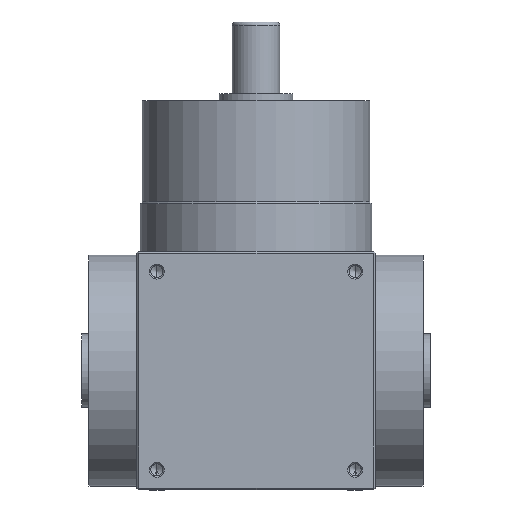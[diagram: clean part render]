
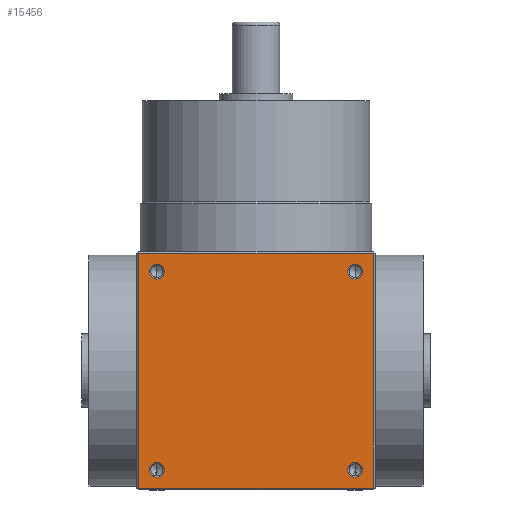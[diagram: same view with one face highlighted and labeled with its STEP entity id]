
A CAD part, front view. The second image highlights one B-rep face of the part: STEP entity #15456.
In plain terms, the highlighted planar face has unit normal (0, -1, 0).
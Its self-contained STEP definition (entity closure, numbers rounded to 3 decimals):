
#26 = CIRCLE ( 'NONE', #12789, 2.025 ) ;
#681 = ORIENTED_EDGE ( 'NONE', *, *, #30812, .F. ) ;
#735 = VERTEX_POINT ( 'NONE', #23445 ) ;
#914 = CARTESIAN_POINT ( 'NONE',  ( -27., -32.5, 3.475 ) ) ;
#1056 = DIRECTION ( 'NONE',  ( 1., 0., 0. ) ) ;
#1063 = CARTESIAN_POINT ( 'NONE',  ( -27., -32.5, 59.5 ) ) ;
#1084 = FACE_BOUND ( 'NONE', #12597, .T. ) ;
#1417 = CARTESIAN_POINT ( 'NONE',  ( -32.5, -32.5, 0.5 ) ) ;
#1503 = CIRCLE ( 'NONE', #18957, 2.025 ) ;
#1593 = EDGE_CURVE ( 'NONE', #42715, #19151, #42397, .T. ) ;
#1824 = AXIS2_PLACEMENT_3D ( 'NONE', #22440, #2060, #25838 ) ;
#2028 = ORIENTED_EDGE ( 'NONE', *, *, #14134, .F. ) ;
#2060 = DIRECTION ( 'NONE',  ( 0., -1., 0. ) ) ;
#2398 = EDGE_CURVE ( 'NONE', #11981, #14572, #43942, .T. ) ;
#2580 = DIRECTION ( 'NONE',  ( 0., 0., 1. ) ) ;
#3337 = EDGE_LOOP ( 'NONE', ( #39073, #16891 ) ) ;
#3469 = ORIENTED_EDGE ( 'NONE', *, *, #23998, .F. ) ;
#4030 = EDGE_LOOP ( 'NONE', ( #23951, #10515 ) ) ;
#4548 = DIRECTION ( 'NONE',  ( 0., 0., -1. ) ) ;
#4918 = CARTESIAN_POINT ( 'NONE',  ( -27., -32.5, 5.5 ) ) ;
#4971 = CIRCLE ( 'NONE', #19236, 2.025 ) ;
#5833 = EDGE_CURVE ( 'NONE', #19393, #735, #22936, .T. ) ;
#6738 = VECTOR ( 'NONE', #32769, 1000. ) ;
#7437 = CARTESIAN_POINT ( 'NONE',  ( -32., -32.5, 64.5 ) ) ;
#8032 = CARTESIAN_POINT ( 'NONE',  ( -32., -32.5, 65. ) ) ;
#8356 = AXIS2_PLACEMENT_3D ( 'NONE', #26166, #26028, #25749 ) ;
#8387 = DIRECTION ( 'NONE',  ( 0., 0., -1. ) ) ;
#8608 = CARTESIAN_POINT ( 'NONE',  ( 27., -32.5, 59.5 ) ) ;
#9500 = CARTESIAN_POINT ( 'NONE',  ( 27., -32.5, 61.525 ) ) ;
#9851 = LINE ( 'NONE', #1417, #36859 ) ;
#10277 = FACE_BOUND ( 'NONE', #3337, .T. ) ;
#10515 = ORIENTED_EDGE ( 'NONE', *, *, #12804, .F. ) ;
#11712 = EDGE_CURVE ( 'NONE', #24565, #32898, #4971, .T. ) ;
#11981 = VERTEX_POINT ( 'NONE', #9500 ) ;
#12032 = DIRECTION ( 'NONE',  ( 0., 0., -1. ) ) ;
#12535 = CARTESIAN_POINT ( 'NONE',  ( 32., -32.5, 65. ) ) ;
#12597 = EDGE_LOOP ( 'NONE', ( #18156, #23937 ) ) ;
#12789 = AXIS2_PLACEMENT_3D ( 'NONE', #4918, #28631, #8387 ) ;
#12804 = EDGE_CURVE ( 'NONE', #735, #19393, #26, .T. ) ;
#12982 = CARTESIAN_POINT ( 'NONE',  ( -27., -32.5, 61.525 ) ) ;
#13707 = CARTESIAN_POINT ( 'NONE',  ( 32., -32.5, 0.5 ) ) ;
#14134 = EDGE_CURVE ( 'NONE', #40551, #19315, #42562, .T. ) ;
#14572 = VERTEX_POINT ( 'NONE', #31330 ) ;
#14701 = DIRECTION ( 'NONE',  ( 0., 0., -1. ) ) ;
#14709 = DIRECTION ( 'NONE',  ( 0., -1., 0. ) ) ;
#14762 = CARTESIAN_POINT ( 'NONE',  ( 27., -32.5, 5.5 ) ) ;
#15456 = ADVANCED_FACE ( 'NONE', ( #1084, #10277, #28216, #29306, #36220 ), #43335, .F. ) ;
#16057 = CARTESIAN_POINT ( 'NONE',  ( -32.5, -32.5, 65. ) ) ;
#16891 = ORIENTED_EDGE ( 'NONE', *, *, #2398, .F. ) ;
#17001 = ORIENTED_EDGE ( 'NONE', *, *, #1593, .F. ) ;
#18156 = ORIENTED_EDGE ( 'NONE', *, *, #20322, .F. ) ;
#18383 = EDGE_LOOP ( 'NONE', ( #681, #2028, #25934, #3469 ) ) ;
#18788 = CARTESIAN_POINT ( 'NONE',  ( -32., -32.5, 0.5 ) ) ;
#18868 = CARTESIAN_POINT ( 'NONE',  ( 32., -32.5, 64.5 ) ) ;
#18957 = AXIS2_PLACEMENT_3D ( 'NONE', #8608, #32274, #12032 ) ;
#19151 = VERTEX_POINT ( 'NONE', #32463 ) ;
#19236 = AXIS2_PLACEMENT_3D ( 'NONE', #1063, #24876, #4548 ) ;
#19315 = VERTEX_POINT ( 'NONE', #7437 ) ;
#19393 = VERTEX_POINT ( 'NONE', #914 ) ;
#19454 = DIRECTION ( 'NONE',  ( 0., -1., 0. ) ) ;
#20322 = EDGE_CURVE ( 'NONE', #32898, #24565, #27841, .T. ) ;
#20901 = EDGE_CURVE ( 'NONE', #24731, #40551, #9851, .T. ) ;
#22440 = CARTESIAN_POINT ( 'NONE',  ( -27., -32.5, 59.5 ) ) ;
#22936 = CIRCLE ( 'NONE', #8356, 2.025 ) ;
#22956 = DIRECTION ( 'NONE',  ( 0., 1., 0. ) ) ;
#22976 = AXIS2_PLACEMENT_3D ( 'NONE', #36235, #36096, #35948 ) ;
#23445 = CARTESIAN_POINT ( 'NONE',  ( -27., -32.5, 7.525 ) ) ;
#23901 = VERTEX_POINT ( 'NONE', #18868 ) ;
#23937 = ORIENTED_EDGE ( 'NONE', *, *, #11712, .F. ) ;
#23951 = ORIENTED_EDGE ( 'NONE', *, *, #5833, .F. ) ;
#23998 = EDGE_CURVE ( 'NONE', #23901, #24731, #41780, .T. ) ;
#24315 = CIRCLE ( 'NONE', #33654, 2.025 ) ;
#24565 = VERTEX_POINT ( 'NONE', #12982 ) ;
#24731 = VERTEX_POINT ( 'NONE', #13707 ) ;
#24872 = CARTESIAN_POINT ( 'NONE',  ( -32.5, -32.5, 64.5 ) ) ;
#24876 = DIRECTION ( 'NONE',  ( 0., -1., 0. ) ) ;
#25514 = VECTOR ( 'NONE', #31543, 1000. ) ;
#25749 = DIRECTION ( 'NONE',  ( 0., 0., -1. ) ) ;
#25838 = DIRECTION ( 'NONE',  ( 0., 0., -1. ) ) ;
#25934 = ORIENTED_EDGE ( 'NONE', *, *, #20901, .F. ) ;
#26028 = DIRECTION ( 'NONE',  ( 0., -1., 0. ) ) ;
#26166 = CARTESIAN_POINT ( 'NONE',  ( -27., -32.5, 5.5 ) ) ;
#27841 = CIRCLE ( 'NONE', #1824, 2.025 ) ;
#28216 = FACE_BOUND ( 'NONE', #36132, .T. ) ;
#28631 = DIRECTION ( 'NONE',  ( 0., -1., 0. ) ) ;
#29306 = FACE_BOUND ( 'NONE', #4030, .T. ) ;
#29423 = EDGE_CURVE ( 'NONE', #14572, #11981, #1503, .T. ) ;
#30812 = EDGE_CURVE ( 'NONE', #19315, #23901, #38450, .T. ) ;
#31330 = CARTESIAN_POINT ( 'NONE',  ( 27., -32.5, 57.475 ) ) ;
#31543 = DIRECTION ( 'NONE',  ( 0., 0., 1. ) ) ;
#32040 = DIRECTION ( 'NONE',  ( -1., 0., 0. ) ) ;
#32274 = DIRECTION ( 'NONE',  ( 0., -1., 0. ) ) ;
#32402 = AXIS2_PLACEMENT_3D ( 'NONE', #16057, #22956, #2580 ) ;
#32463 = CARTESIAN_POINT ( 'NONE',  ( 27., -32.5, 3.475 ) ) ;
#32769 = DIRECTION ( 'NONE',  ( 0., 0., -1. ) ) ;
#32898 = VERTEX_POINT ( 'NONE', #43327 ) ;
#33654 = AXIS2_PLACEMENT_3D ( 'NONE', #39828, #19454, #43225 ) ;
#35948 = DIRECTION ( 'NONE',  ( 0., 0., -1. ) ) ;
#36096 = DIRECTION ( 'NONE',  ( 0., -1., 0. ) ) ;
#36132 = EDGE_LOOP ( 'NONE', ( #40435, #17001 ) ) ;
#36220 = FACE_OUTER_BOUND ( 'NONE', #18383, .T. ) ;
#36235 = CARTESIAN_POINT ( 'NONE',  ( 27., -32.5, 59.5 ) ) ;
#36859 = VECTOR ( 'NONE', #32040, 1000. ) ;
#38450 = LINE ( 'NONE', #24872, #39514 ) ;
#38575 = EDGE_CURVE ( 'NONE', #19151, #42715, #24315, .T. ) ;
#39073 = ORIENTED_EDGE ( 'NONE', *, *, #29423, .F. ) ;
#39514 = VECTOR ( 'NONE', #1056, 1000. ) ;
#39678 = CARTESIAN_POINT ( 'NONE',  ( 27., -32.5, 7.525 ) ) ;
#39828 = CARTESIAN_POINT ( 'NONE',  ( 27., -32.5, 5.5 ) ) ;
#40435 = ORIENTED_EDGE ( 'NONE', *, *, #38575, .F. ) ;
#40551 = VERTEX_POINT ( 'NONE', #18788 ) ;
#41780 = LINE ( 'NONE', #12535, #6738 ) ;
#42397 = CIRCLE ( 'NONE', #43764, 2.025 ) ;
#42562 = LINE ( 'NONE', #8032, #25514 ) ;
#42715 = VERTEX_POINT ( 'NONE', #39678 ) ;
#43225 = DIRECTION ( 'NONE',  ( 0., 0., -1. ) ) ;
#43327 = CARTESIAN_POINT ( 'NONE',  ( -27., -32.5, 57.475 ) ) ;
#43335 = PLANE ( 'NONE',  #32402 ) ;
#43764 = AXIS2_PLACEMENT_3D ( 'NONE', #14762, #14709, #14701 ) ;
#43942 = CIRCLE ( 'NONE', #22976, 2.025 ) ;
